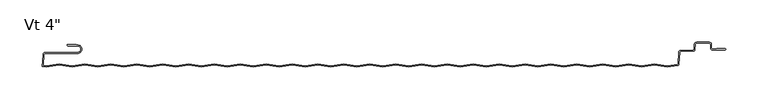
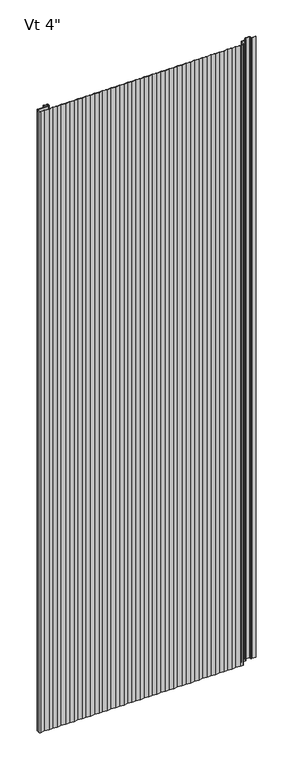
"""IFC4 building model written with IfcOpenShell, lengths in millimetres: plate geometry."""

from ifc_helpers import new_model, si_unit, point, frame, origin, place, context, project, spatial, polyline, circle_curve, ellipse_curve, trimmed, source, transform, mapped, element, save
from ifc_brep_helpers import plane_surface, cylinder_surface, revolved_surface, extruded_surface, advanced_brep


def plate_fa4b8fa4(model_context):
    return source(origin(), model_context, "Body", "AdvancedBrep", [
        advanced_brep(
        [(-404.2252049, -76.2, 2400.0), (-404.2252049, -77.7875, 2400.0), (-392.9142674, -77.7875, 2400.0), (-392.9142674, -85.725, 2400.0), (-431.0975721, -85.725, 2400.0), (-433.4755586, -87.981625, 2400.0), (-434.21832, -102.1543553, 2400.0), (-429.8646686, -102.8509395, 2400.0), (-414.6246686, -100.4125395, 2400.0), (-399.3846686, -102.8509395, 2400.0), (-384.1446686, -100.4125395, 2400.0), (-368.9046686, -102.8509395, 2400.0), (-353.6646686, -100.4125395, 2400.0), (-338.4246686, -102.8509395, 2400.0), (-323.1846686, -100.4125395, 2400.0), (-307.9446686, -102.8509395, 2400.0), (-292.7046686, -100.4125395, 2400.0), (-277.4646686, -102.8509395, 2400.0), (-262.2246686, -100.4125395, 2400.0), (-246.9846686, -102.8509395, 2400.0), (-231.7446686, -100.4125395, 2400.0), (-216.5046686, -102.8509395, 2400.0), (-201.2646686, -100.4125395, 2400.0), (-186.0246686, -102.8509395, 2400.0), (-170.7846686, -100.4125395, 2400.0), (-155.5446686, -102.8509395, 2400.0), (-140.3046686, -100.4125395, 2400.0), (-125.0646686, -102.8509395, 2400.0), (-109.8246686, -100.4125395, 2400.0), (-94.5846686, -102.8509395, 2400.0), (-79.3446686, -100.4125395, 2400.0), (-64.1046686, -102.8509395, 2400.0), (-48.8646686, -100.4125395, 2400.0), (-33.6246686, -102.8509395, 2400.0), (-18.3846686, -100.4125395, 2400.0), (-3.1446686, -102.8509395, 2400.0), (12.0953314, -100.4125395, 2400.0), (27.3353314, -102.8509395, 2400.0), (42.5753314, -100.4125395, 2400.0), (57.8153314, -102.8509395, 2400.0), (73.0553314, -100.4125395, 2400.0), (88.2953314, -102.8509395, 2400.0), (103.5353314, -100.4125395, 2400.0), (118.7753314, -102.8509395, 2400.0), (134.0153314, -100.4125395, 2400.0), (149.2553314, -102.8509395, 2400.0), (164.4953314, -100.4125395, 2400.0), (179.7353314, -102.8509395, 2400.0), (194.9753314, -100.4125395, 2400.0), (210.2153314, -102.8509395, 2400.0), (225.4553314, -100.4125395, 2400.0), (240.6953314, -102.8509395, 2400.0), (255.9353314, -100.4125395, 2400.0), (271.1753314, -102.8509395, 2400.0), (286.4153314, -100.4125395, 2400.0), (301.4527639, -102.8185287, 2400.0), (313.8944828, -100.8278537, 2400.0), (315.2289973, -99.343375, 2400.0), (315.9470603, -85.6419167, 2400.0), (317.5323847, -84.1375, 2400.0), (331.6886911, -84.1375, 2400.0), (334.0666776, -81.880875, 2400.0), (334.3687539, -76.1169167, 2400.0), (335.9540783, -74.6125, 2400.0), (350.8294826, -74.6125, 2400.0), (352.4169826, -76.2, 2400.0), (352.4169826, -80.3671875, 2400.0), (354.7982326, -82.7484375, 2400.0), (369.2898532, -82.7484375, 2400.0), (369.2898532, -80.9546875, 2400.0), (359.5607326, -80.9546875, 2400.0), (359.5607326, -81.7484375, 2400.0), (354.7982326, -81.7484375, 2400.0), (353.4169826, -80.3671875, 2400.0), (353.4169826, -76.2, 2400.0), (350.8294826, -73.6125, 2400.0), (335.9540783, -73.6125, 2400.0), (333.3701244, -76.0645807, 2400.0), (333.0680481, -81.828539, 2400.0), (331.6886911, -83.1375, 2400.0), (317.5323847, -83.1375, 2400.0), (314.9484307, -85.5895807, 2400.0), (314.2303677, -99.291039, 2400.0), (313.7364923, -99.840413, 2400.0), (301.4527639, -101.8058096, 2400.0), (286.4153314, -99.3998204, 2400.0), (271.1753314, -101.8382204, 2400.0), (255.9353314, -99.3998204, 2400.0), (240.6953314, -101.8382204, 2400.0), (225.4553314, -99.3998204, 2400.0), (210.2153314, -101.8382204, 2400.0), (194.9753314, -99.3998204, 2400.0), (179.7353314, -101.8382204, 2400.0), (164.4953314, -99.3998204, 2400.0), (149.2553314, -101.8382204, 2400.0), (134.0153314, -99.3998204, 2400.0), (118.7753314, -101.8382204, 2400.0), (103.5353314, -99.3998204, 2400.0), (88.2953314, -101.8382204, 2400.0), (73.0553314, -99.3998204, 2400.0), (57.8153314, -101.8382204, 2400.0), (42.5753314, -99.3998204, 2400.0), (27.3353314, -101.8382204, 2400.0), (12.0953314, -99.3998204, 2400.0), (-3.1446686, -101.8382204, 2400.0), (-18.3846686, -99.3998204, 2400.0), (-33.6246686, -101.8382204, 2400.0), (-48.8646686, -99.3998204, 2400.0), (-64.1046686, -101.8382204, 2400.0), (-79.3446686, -99.3998204, 2400.0), (-94.5846686, -101.8382204, 2400.0), (-109.8246686, -99.3998204, 2400.0), (-125.0646686, -101.8382204, 2400.0), (-140.3046686, -99.3998204, 2400.0), (-155.5446686, -101.8382204, 2400.0), (-170.7846686, -99.3998204, 2400.0), (-186.0246686, -101.8382204, 2400.0), (-201.2646686, -99.3998204, 2400.0), (-216.5046686, -101.8382204, 2400.0), (-231.7446686, -99.3998204, 2400.0), (-246.9846686, -101.8382204, 2400.0), (-262.2246686, -99.3998204, 2400.0), (-277.4646686, -101.8382204, 2400.0), (-292.7046686, -99.3998204, 2400.0), (-307.9446686, -101.8382204, 2400.0), (-323.1846686, -99.3998204, 2400.0), (-338.4246686, -101.8382204, 2400.0), (-353.6646686, -99.3998204, 2400.0), (-368.9046686, -101.8382204, 2400.0), (-384.1446686, -99.3998204, 2400.0), (-399.3846686, -101.8382204, 2400.0), (-414.6246686, -99.3998204, 2400.0), (-429.8646686, -101.8382204, 2400.0), (-433.1726415, -101.3089447, 2400.0), (-432.4769291, -88.033961, 2400.0), (-431.0975721, -86.725, 2400.0), (-392.9142674, -86.725, 2400.0), (-392.9142674, -76.7875, 2400.0), (-394.5017674, -76.99375, 2400.0), (-394.5017674, -76.2, 2400.0), (-404.2252049, -76.2, 0.0), (-394.5017674, -76.2, 0.0), (-394.5017674, -76.99375, 0.0), (-392.9142674, -76.7875, 0.0), (-392.9142674, -86.725, 0.0), (-431.0975721, -86.725, 0.0), (-432.4769291, -88.033961, 0.0), (-433.1726415, -101.3089447, 0.0), (-429.8646686, -101.8382204, 0.0), (-414.6246686, -99.3998204, 0.0), (-399.3846686, -101.8382204, 0.0), (-384.1446686, -99.3998204, 0.0), (-368.9046686, -101.8382204, 0.0), (-353.6646686, -99.3998204, 0.0), (-338.4246686, -101.8382204, 0.0), (-323.1846686, -99.3998204, 0.0), (-307.9446686, -101.8382204, 0.0), (-292.7046686, -99.3998204, 0.0), (-277.4646686, -101.8382204, 0.0), (-262.2246686, -99.3998204, 0.0), (-246.9846686, -101.8382204, 0.0), (-231.7446686, -99.3998204, 0.0), (-216.5046686, -101.8382204, 0.0), (-201.2646686, -99.3998204, 0.0), (-186.0246686, -101.8382204, 0.0), (-170.7846686, -99.3998204, 0.0), (-155.5446686, -101.8382204, 0.0), (-140.3046686, -99.3998204, 0.0), (-125.0646686, -101.8382204, 0.0), (-109.8246686, -99.3998204, 0.0), (-94.5846686, -101.8382204, 0.0), (-79.3446686, -99.3998204, 0.0), (-64.1046686, -101.8382204, 0.0), (-48.8646686, -99.3998204, 0.0), (-33.6246686, -101.8382204, 0.0), (-18.3846686, -99.3998204, 0.0), (-3.1446686, -101.8382204, 0.0), (12.0953314, -99.3998204, 0.0), (27.3353314, -101.8382204, 0.0), (42.5753314, -99.3998204, 0.0), (57.8153314, -101.8382204, 0.0), (73.0553314, -99.3998204, 0.0), (88.2953314, -101.8382204, 0.0), (103.5353314, -99.3998204, 0.0), (118.7753314, -101.8382204, 0.0), (134.0153314, -99.3998204, 0.0), (149.2553314, -101.8382204, 0.0), (164.4953314, -99.3998204, 0.0), (179.7353314, -101.8382204, 0.0), (194.9753314, -99.3998204, 0.0), (210.2153314, -101.8382204, 0.0), (225.4553314, -99.3998204, 0.0), (240.6953314, -101.8382204, 0.0), (255.9353314, -99.3998204, 0.0), (271.1753314, -101.8382204, 0.0), (286.4153314, -99.3998204, 0.0), (301.4527639, -101.8058096, 0.0), (313.7364923, -99.840413, 0.0), (314.2303677, -99.291039, 0.0), (314.9484307, -85.5895807, 0.0), (317.5323847, -83.1375, 0.0), (331.6886911, -83.1375, 0.0), (333.0680481, -81.828539, 0.0), (333.3701244, -76.0645807, 0.0), (335.9540783, -73.6125, 0.0), (350.8294826, -73.6125, 0.0), (353.4169826, -76.2, 0.0), (353.4169826, -80.3671875, 0.0), (354.7982326, -81.7484375, 0.0), (359.5607326, -81.7484375, 0.0), (359.5607326, -80.9546875, 0.0), (369.2898532, -80.9546875, 0.0), (369.2898532, -82.7484375, 0.0), (354.7982326, -82.7484375, 0.0), (352.4169826, -80.3671875, 0.0), (352.4169826, -76.2, 0.0), (350.8294826, -74.6125, 0.0), (335.9540783, -74.6125, 0.0), (334.3687539, -76.1169167, 0.0), (334.0666776, -81.880875, 0.0), (331.6886911, -84.1375, 0.0), (317.5323847, -84.1375, 0.0), (315.9470603, -85.6419167, 0.0), (315.2289973, -99.343375, 0.0), (313.8944828, -100.8278537, 0.0), (301.4527639, -102.8185287, 0.0), (286.4153314, -100.4125395, 0.0), (271.1753314, -102.8509395, 0.0), (255.9353314, -100.4125395, 0.0), (240.6953314, -102.8509395, 0.0), (225.4553314, -100.4125395, 0.0), (210.2153314, -102.8509395, 0.0), (194.9753314, -100.4125395, 0.0), (179.7353314, -102.8509395, 0.0), (164.4953314, -100.4125395, 0.0), (149.2553314, -102.8509395, 0.0), (134.0153314, -100.4125395, 0.0), (118.7753314, -102.8509395, 0.0), (103.5353314, -100.4125395, 0.0), (88.2953314, -102.8509395, 0.0), (73.0553314, -100.4125395, 0.0), (57.8153314, -102.8509395, 0.0), (42.5753314, -100.4125395, 0.0), (27.3353314, -102.8509395, 0.0), (12.0953314, -100.4125395, 0.0), (-3.1446686, -102.8509395, 0.0), (-18.3846686, -100.4125395, 0.0), (-33.6246686, -102.8509395, 0.0), (-48.8646686, -100.4125395, 0.0), (-64.1046686, -102.8509395, 0.0), (-79.3446686, -100.4125395, 0.0), (-94.5846686, -102.8509395, 0.0), (-109.8246686, -100.4125395, 0.0), (-125.0646686, -102.8509395, 0.0), (-140.3046686, -100.4125395, 0.0), (-155.5446686, -102.8509395, 0.0), (-170.7846686, -100.4125395, 0.0), (-186.0246686, -102.8509395, 0.0), (-201.2646686, -100.4125395, 0.0), (-216.5046686, -102.8509395, 0.0), (-231.7446686, -100.4125395, 0.0), (-246.9846686, -102.8509395, 0.0), (-262.2246686, -100.4125395, 0.0), (-277.4646686, -102.8509395, 0.0), (-292.7046686, -100.4125395, 0.0), (-307.9446686, -102.8509395, 0.0), (-323.1846686, -100.4125395, 0.0), (-338.4246686, -102.8509395, 0.0), (-353.6646686, -100.4125395, 0.0), (-368.9046686, -102.8509395, 0.0), (-384.1446686, -100.4125395, 0.0), (-399.3846686, -102.8509395, 0.0), (-414.6246686, -100.4125395, 0.0), (-429.8646686, -102.8509395, 0.0), (-434.21832, -102.1543553, 0.0), (-433.4755586, -87.981625, 0.0), (-431.0975721, -85.725, 0.0), (-392.9142674, -85.725, 0.0), (-392.9142674, -77.7875, 0.0), (-404.2252049, -77.7875, 0.0)],
        [
            (0, 1, circle_curve(frame((-404.2252049, -76.99375, 2400.0), z_axis=(0.0, 0.0, 1.0), x_axis=(1.0, 0.0, 0.0)), 0.79375)),
            (1, 2),
            (2, 3, circle_curve(frame((-392.9142674, -81.75625, 2400.0), z_axis=(0.0, 0.0, -1.0), x_axis=(1.0, 0.0, 0.0)), 3.96875)),
            (3, 4),
            (4, 5, circle_curve(frame((-431.0975721, -88.10625, 2400.0), z_axis=(0.0, 0.0, 1.0), x_axis=(1.0, 0.0, 0.0)), 2.38125)),
            (5, 6),
            (6, 7),
            (7, 8),
            (8, 9),
            (9, 10),
            (10, 11),
            (11, 12),
            (12, 13),
            (13, 14),
            (14, 15),
            (15, 16),
            (16, 17),
            (17, 18),
            (18, 19),
            (19, 20),
            (20, 21),
            (21, 22),
            (22, 23),
            (23, 24),
            (24, 25),
            (25, 26),
            (26, 27),
            (27, 28),
            (28, 29),
            (29, 30),
            (30, 31),
            (31, 32),
            (32, 33),
            (33, 34),
            (34, 35),
            (35, 36),
            (36, 37),
            (37, 38),
            (38, 39),
            (39, 40),
            (40, 41),
            (41, 42),
            (42, 43),
            (43, 44),
            (44, 45),
            (45, 46),
            (46, 47),
            (47, 48),
            (48, 49),
            (49, 50),
            (50, 51),
            (51, 52),
            (52, 53),
            (53, 54),
            (54, 55),
            (55, 56),
            (56, 57, circle_curve(frame((313.6436729, -99.2602917, 2400.0), z_axis=(0.0, 0.0, 1.0), x_axis=(1.0, 0.0, 0.0)), 1.5875)),
            (57, 58),
            (58, 59, circle_curve(frame((317.5323847, -85.725, 2400.0), z_axis=(0.0, 0.0, -1.0), x_axis=(1.0, 0.0, 0.0)), 1.5875)),
            (59, 60),
            (60, 61, circle_curve(frame((331.6886911, -81.75625, 2400.0), z_axis=(0.0, 0.0, 1.0), x_axis=(1.0, 0.0, 0.0)), 2.38125)),
            (61, 62),
            (62, 63, circle_curve(frame((335.9540783, -76.2, 2400.0), z_axis=(0.0, 0.0, -1.0), x_axis=(1.0, 0.0, 0.0)), 1.5875)),
            (63, 64),
            (64, 65, circle_curve(frame((350.8294826, -76.2, 2400.0), z_axis=(0.0, 0.0, -1.0), x_axis=(1.0, 0.0, 0.0)), 1.5875)),
            (65, 66),
            (66, 67, circle_curve(frame((354.7982326, -80.3671875, 2400.0), z_axis=(0.0, 0.0, 1.0), x_axis=(1.0, 0.0, 0.0)), 2.38125)),
            (67, 68),
            (68, 69, ellipse_curve(frame((369.2898532, -81.8515625, 2400.0), z_axis=(0.0, 0.0, 1.0), x_axis=(0.0, 1.0, 0.0)), 0.896875, 0.7852275)),
            (69, 70),
            (70, 71),
            (71, 72),
            (72, 73, circle_curve(frame((354.7982326, -80.3671875, 2400.0), z_axis=(0.0, 0.0, -1.0), x_axis=(1.0, 0.0, 0.0)), 1.38125)),
            (73, 74),
            (74, 75, circle_curve(frame((350.8294826, -76.2, 2400.0), z_axis=(0.0, 0.0, 1.0), x_axis=(1.0, 0.0, 0.0)), 2.5875)),
            (75, 76),
            (76, 77, circle_curve(frame((335.9540783, -76.2, 2400.0), z_axis=(0.0, 0.0, 1.0), x_axis=(1.0, 0.0, 0.0)), 2.5875)),
            (77, 78),
            (78, 79, circle_curve(frame((331.6886911, -81.75625, 2400.0), z_axis=(0.0, 0.0, -1.0), x_axis=(1.0, 0.0, 0.0)), 1.38125)),
            (79, 80),
            (80, 81, circle_curve(frame((317.5323847, -85.725, 2400.0), z_axis=(0.0, 0.0, 1.0), x_axis=(1.0, 0.0, 0.0)), 2.5875)),
            (81, 82),
            (82, 83, circle_curve(frame((313.6436729, -99.2602917, 2400.0), z_axis=(0.0, 0.0, -1.0), x_axis=(1.0, 0.0, 0.0)), 0.5875)),
            (83, 84),
            (84, 85),
            (85, 86),
            (86, 87),
            (87, 88),
            (88, 89),
            (89, 90),
            (90, 91),
            (91, 92),
            (92, 93),
            (93, 94),
            (94, 95),
            (95, 96),
            (96, 97),
            (97, 98),
            (98, 99),
            (99, 100),
            (100, 101),
            (101, 102),
            (102, 103),
            (103, 104),
            (104, 105),
            (105, 106),
            (106, 107),
            (107, 108),
            (108, 109),
            (109, 110),
            (110, 111),
            (111, 112),
            (112, 113),
            (113, 114),
            (114, 115),
            (115, 116),
            (116, 117),
            (117, 118),
            (118, 119),
            (119, 120),
            (120, 121),
            (121, 122),
            (122, 123),
            (123, 124),
            (124, 125),
            (125, 126),
            (126, 127),
            (127, 128),
            (128, 129),
            (129, 130),
            (130, 131),
            (131, 132),
            (132, 133),
            (133, 134),
            (134, 135, circle_curve(frame((-431.0975721, -88.10625, 2400.0), z_axis=(0.0, 0.0, -1.0), x_axis=(1.0, 0.0, 0.0)), 1.38125)),
            (135, 136),
            (136, 137, circle_curve(frame((-392.9142674, -81.75625, 2400.0), z_axis=(0.0, 0.0, 1.0), x_axis=(1.0, 0.0, 0.0)), 4.96875)),
            (137, 138),
            (138, 139),
            (139, 0),
            (140, 141),
            (141, 142),
            (142, 143),
            (143, 144, circle_curve(frame((-392.9142674, -81.75625, 0.0), z_axis=(0.0, 0.0, -1.0), x_axis=(1.0, 0.0, 0.0)), 4.96875)),
            (144, 145),
            (145, 146, circle_curve(frame((-431.0975721, -88.10625, 0.0), z_axis=(0.0, 0.0, 1.0), x_axis=(1.0, 0.0, 0.0)), 1.38125)),
            (146, 147),
            (147, 148),
            (148, 149),
            (149, 150),
            (150, 151),
            (151, 152),
            (152, 153),
            (153, 154),
            (154, 155),
            (155, 156),
            (156, 157),
            (157, 158),
            (158, 159),
            (159, 160),
            (160, 161),
            (161, 162),
            (162, 163),
            (163, 164),
            (164, 165),
            (165, 166),
            (166, 167),
            (167, 168),
            (168, 169),
            (169, 170),
            (170, 171),
            (171, 172),
            (172, 173),
            (173, 174),
            (174, 175),
            (175, 176),
            (176, 177),
            (177, 178),
            (178, 179),
            (179, 180),
            (180, 181),
            (181, 182),
            (182, 183),
            (183, 184),
            (184, 185),
            (185, 186),
            (186, 187),
            (187, 188),
            (188, 189),
            (189, 190),
            (190, 191),
            (191, 192),
            (192, 193),
            (193, 194),
            (194, 195),
            (195, 196),
            (196, 197),
            (197, 198, circle_curve(frame((313.6436729, -99.2602917, 0.0), z_axis=(0.0, 0.0, 1.0), x_axis=(1.0, 0.0, 0.0)), 0.5875)),
            (198, 199),
            (199, 200, circle_curve(frame((317.5323847, -85.725, 0.0), z_axis=(0.0, 0.0, -1.0), x_axis=(1.0, 0.0, 0.0)), 2.5875)),
            (200, 201),
            (201, 202, circle_curve(frame((331.6886911, -81.75625, 0.0), z_axis=(0.0, 0.0, 1.0), x_axis=(1.0, 0.0, 0.0)), 1.38125)),
            (202, 203),
            (203, 204, circle_curve(frame((335.9540783, -76.2, 0.0), z_axis=(0.0, 0.0, -1.0), x_axis=(1.0, 0.0, 0.0)), 2.5875)),
            (204, 205),
            (205, 206, circle_curve(frame((350.8294826, -76.2, 0.0), z_axis=(0.0, 0.0, -1.0), x_axis=(1.0, 0.0, 0.0)), 2.5875)),
            (206, 207),
            (207, 208, circle_curve(frame((354.7982326, -80.3671875, 0.0), z_axis=(0.0, 0.0, 1.0), x_axis=(1.0, 0.0, 0.0)), 1.38125)),
            (208, 209),
            (209, 210),
            (210, 211),
            (211, 212, ellipse_curve(frame((369.2898532, -81.8515625, 0.0), z_axis=(0.0, 0.0, -1.0), x_axis=(0.0, 1.0, 0.0)), 0.896875, 0.7852275)),
            (212, 213),
            (213, 214, circle_curve(frame((354.7982326, -80.3671875, 0.0), z_axis=(0.0, 0.0, -1.0), x_axis=(1.0, 0.0, 0.0)), 2.38125)),
            (214, 215),
            (215, 216, circle_curve(frame((350.8294826, -76.2, 0.0), z_axis=(0.0, 0.0, 1.0), x_axis=(1.0, 0.0, 0.0)), 1.5875)),
            (216, 217),
            (217, 218, circle_curve(frame((335.9540783, -76.2, 0.0), z_axis=(0.0, 0.0, 1.0), x_axis=(1.0, 0.0, 0.0)), 1.5875)),
            (218, 219),
            (219, 220, circle_curve(frame((331.6886911, -81.75625, 0.0), z_axis=(0.0, 0.0, -1.0), x_axis=(1.0, 0.0, 0.0)), 2.38125)),
            (220, 221),
            (221, 222, circle_curve(frame((317.5323847, -85.725, 0.0), z_axis=(0.0, 0.0, 1.0), x_axis=(1.0, 0.0, 0.0)), 1.5875)),
            (222, 223),
            (223, 224, circle_curve(frame((313.6436729, -99.2602917, 0.0), z_axis=(0.0, 0.0, -1.0), x_axis=(1.0, 0.0, 0.0)), 1.5875)),
            (224, 225),
            (225, 226),
            (226, 227),
            (227, 228),
            (228, 229),
            (229, 230),
            (230, 231),
            (231, 232),
            (232, 233),
            (233, 234),
            (234, 235),
            (235, 236),
            (236, 237),
            (237, 238),
            (238, 239),
            (239, 240),
            (240, 241),
            (241, 242),
            (242, 243),
            (243, 244),
            (244, 245),
            (245, 246),
            (246, 247),
            (247, 248),
            (248, 249),
            (249, 250),
            (250, 251),
            (251, 252),
            (252, 253),
            (253, 254),
            (254, 255),
            (255, 256),
            (256, 257),
            (257, 258),
            (258, 259),
            (259, 260),
            (260, 261),
            (261, 262),
            (262, 263),
            (263, 264),
            (264, 265),
            (265, 266),
            (266, 267),
            (267, 268),
            (268, 269),
            (269, 270),
            (270, 271),
            (271, 272),
            (272, 273),
            (273, 274),
            (274, 275),
            (275, 276, circle_curve(frame((-431.0975721, -88.10625, 0.0), z_axis=(0.0, 0.0, -1.0), x_axis=(1.0, 0.0, 0.0)), 2.38125)),
            (276, 277),
            (277, 278, circle_curve(frame((-392.9142674, -81.75625, 0.0), z_axis=(0.0, 0.0, 1.0), x_axis=(1.0, 0.0, 0.0)), 3.96875)),
            (278, 279),
            (279, 140, circle_curve(frame((-404.2252049, -76.99375, 0.0), z_axis=(0.0, 0.0, -1.0), x_axis=(1.0, 0.0, 0.0)), 0.79375)),
            (139, 141),
            (140, 0),
            (279, 1),
            (278, 2),
            (277, 3),
            (276, 4),
            (275, 5),
            (274, 6),
            (58, 222),
            (221, 59),
            (220, 60),
            (219, 61),
            (218, 62),
            (217, 63),
            (134, 146),
            (145, 135),
            (80, 200),
            (199, 81),
            (79, 201),
            (78, 202),
            (77, 203),
            (76, 204),
            (71, 209),
            (208, 72),
            (207, 73),
            (206, 74),
            (216, 64),
            (215, 65),
            (214, 66),
            (213, 67),
            (212, 68),
            (75, 205),
            (144, 136),
            (143, 137),
            (138, 142),
            (70, 210),
            (69, 211),
            (85, 195),
            (194, 86),
            (193, 87),
            (192, 88),
            (191, 89),
            (190, 90),
            (189, 91),
            (188, 92),
            (187, 93),
            (186, 94),
            (185, 95),
            (184, 96),
            (183, 97),
            (182, 98),
            (181, 99),
            (129, 151),
            (150, 130),
            (149, 131),
            (148, 132),
            (147, 133),
            (273, 7),
            (272, 8),
            (271, 9),
            (270, 10),
            (24, 256),
            (255, 25),
            (254, 26),
            (253, 27),
            (252, 28),
            (40, 240),
            (239, 41),
            (238, 42),
            (39, 241),
            (38, 242),
            (37, 243),
            (36, 244),
            (35, 245),
            (34, 246),
            (33, 247),
            (32, 248),
            (31, 249),
            (30, 250),
            (29, 251),
            (114, 166),
            (165, 115),
            (113, 167),
            (112, 168),
            (111, 169),
            (110, 170),
            (109, 171),
            (108, 172),
            (107, 173),
            (106, 174),
            (105, 175),
            (104, 176),
            (103, 177),
            (102, 178),
            (101, 179),
            (100, 180),
            (121, 159),
            (158, 122),
            (57, 223),
            (198, 82),
            (54, 226),
            (225, 55),
            (84, 196),
            (237, 43),
            (236, 44),
            (235, 45),
            (234, 46),
            (233, 47),
            (232, 48),
            (231, 49),
            (230, 50),
            (229, 51),
            (228, 52),
            (157, 123),
            (227, 53),
            (224, 56),
            (197, 83),
            (164, 116),
            (163, 117),
            (162, 118),
            (161, 119),
            (160, 120),
            (19, 261),
            (260, 20),
            (18, 262),
            (259, 21),
            (22, 258),
            (257, 23),
            (156, 124),
            (125, 155),
            (154, 126),
            (153, 127),
            (12, 268),
            (267, 13),
            (266, 14),
            (265, 15),
            (264, 16),
            (263, 17),
            (152, 128),
            (269, 11),
        ],
        [
            plane_surface(frame((0.00625, -101.6, 2400.0), z_axis=(0.0, 0.0, 1.0), x_axis=(0.0, -1.0, 0.0))),
            plane_surface(frame((0.00625, -101.6, 0.0), z_axis=(0.0, 0.0, -1.0), x_axis=(0.0, -1.0, 0.0))),
            plane_surface(frame((-404.2252049, -76.2, 2400.0), z_axis=(0.0, 1.0, 0.0), x_axis=(0.0, 0.0, -1.0))),
            cylinder_surface(frame((-404.2252049, -76.99375, 2400.0), z_axis=(0.0, 0.0, 1.0), x_axis=(1.0, 0.0, 0.0)), 0.79375),
            plane_surface(frame((-392.9142674, -77.7875, 2400.0), z_axis=(0.0, -1.0, 0.0), x_axis=(0.0, 0.0, -1.0))),
            revolved_surface(polyline([(-388.9455174, -81.75625, 0.0), (-388.9455174, -81.75625, 2400.0)]), (-392.9142674, -81.75625, 2400.0), (0.0, 0.0, -1.0)),
            plane_surface(frame((-431.0975721, -85.725, 2400.0), z_axis=(0.0, 1.0, 0.0), x_axis=(0.0, 0.0, -1.0))),
            cylinder_surface(frame((-431.0975721, -88.10625, 2400.0), z_axis=(0.0, 0.0, 1.0), x_axis=(1.0, 0.0, 0.0)), 2.38125),
            plane_surface(frame((-434.21832, -102.1543553, 2400.0), z_axis=(-0.9986295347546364, 0.05233595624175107, 0.0), x_axis=(0.0, 0.0, -1.0))),
            revolved_surface(polyline([(319.1198847, -85.725, 0.0), (319.1198847, -85.725, 2400.0)]), (317.5323847, -85.725, 2400.0), (0.0, 0.0, -1.0)),
            plane_surface(frame((331.6886911, -84.1375, 2400.0), z_axis=(0.0, -1.0, 0.0), x_axis=(0.0, 0.0, -1.0))),
            cylinder_surface(frame((331.6886911, -81.75625, 2400.0), z_axis=(0.0, 0.0, 1.0), x_axis=(1.0, 0.0, 0.0)), 2.38125),
            plane_surface(frame((334.3687539, -76.1169167, 2400.0), z_axis=(0.9986295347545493, -0.052335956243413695, 0.0), x_axis=(0.0, 0.0, -1.0))),
            revolved_surface(polyline([(337.54157829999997, -76.2, 0.0), (337.54157829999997, -76.2, 2400.0)]), (335.9540783, -76.2, 2400.0), (0.0, 0.0, -1.0)),
            revolved_surface(polyline([(-429.71632209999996, -88.10625, 0.0), (-429.71632209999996, -88.10625, 2400.0)]), (-431.0975721, -88.10625, 2400.0), (0.0, 0.0, -1.0)),
            cylinder_surface(frame((317.5323847, -85.725, 2400.0), z_axis=(0.0, 0.0, 1.0), x_axis=(1.0, 0.0, 0.0)), 2.5875),
            plane_surface(frame((317.5323847, -83.1375, 2400.0), z_axis=(0.0, 1.0, 0.0), x_axis=(0.0, 0.0, -1.0))),
            revolved_surface(polyline([(333.06994110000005, -81.75625, 0.0), (333.06994110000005, -81.75625, 2400.0)]), (331.6886911, -81.75625, 2400.0), (0.0, 0.0, -1.0)),
            plane_surface(frame((333.0680481, -81.828539, 2400.0), z_axis=(-0.998629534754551, 0.05233595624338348, 0.0), x_axis=(0.0, 0.0, -1.0))),
            cylinder_surface(frame((335.9540783, -76.2, 2400.0), z_axis=(0.0, 0.0, 1.0), x_axis=(1.0, 0.0, 0.0)), 2.5875),
            plane_surface(frame((354.7982326, -81.7484375, 2400.0), z_axis=(0.0, 1.0, 0.0), x_axis=(0.0, 0.0, -1.0))),
            revolved_surface(polyline([(356.17948260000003, -80.3671875, 0.0), (356.17948260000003, -80.3671875, 2400.0)]), (354.7982326, -80.3671875, 2400.0), (0.0, 0.0, -1.0)),
            plane_surface(frame((353.4169826, -76.2, 2400.0), z_axis=(1.0, 0.0, 0.0), x_axis=(0.0, 0.0, -1.0))),
            plane_surface(frame((350.8294826, -74.6125, 2400.0), z_axis=(0.0, -1.0, 0.0), x_axis=(0.0, 0.0, -1.0))),
            revolved_surface(polyline([(352.4169826, -76.2, 0.0), (352.4169826, -76.2, 2400.0)]), (350.8294826, -76.2, 2400.0), (0.0, 0.0, -1.0)),
            plane_surface(frame((352.4169826, -80.3671875, 2400.0), z_axis=(-1.0, 0.0, 0.0), x_axis=(0.0, 0.0, -1.0))),
            cylinder_surface(frame((354.7982326, -80.3671875, 2400.0), z_axis=(0.0, 0.0, 1.0), x_axis=(1.0, 0.0, 0.0)), 2.38125),
            plane_surface(frame((369.2898532, -82.7484375, 2400.0), z_axis=(0.0, -1.0, 0.0), x_axis=(0.0, 0.0, -1.0))),
            plane_surface(frame((335.9540783, -73.6125, 2400.0), z_axis=(0.0, 1.0, 0.0), x_axis=(0.0, 0.0, -1.0))),
            cylinder_surface(frame((350.8294826, -76.2, 2400.0), z_axis=(0.0, 0.0, 1.0), x_axis=(1.0, 0.0, 0.0)), 2.5875),
            plane_surface(frame((-392.9142674, -86.725, 2400.0), z_axis=(0.0, -1.0, 0.0), x_axis=(0.0, 0.0, -1.0))),
            cylinder_surface(frame((-392.9142674, -81.75625, 2400.0), z_axis=(0.0, 0.0, 1.0), x_axis=(1.0, 0.0, 0.0)), 4.96875),
            plane_surface(frame((-394.5017674, -76.2, 2400.0), z_axis=(1.0, 0.0, 0.0), x_axis=(0.0, 0.0, -1.0))),
            plane_surface(frame((-394.5017674, -76.99375, 2400.0), z_axis=(-0.12883844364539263, 0.9916655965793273, 0.0), x_axis=(0.0, 0.0, -1.0))),
            plane_surface(frame((359.5607326, -81.7484375, 2400.0), z_axis=(-1.0, 0.0, 0.0), x_axis=(0.0, 0.0, -1.0))),
            plane_surface(frame((359.5607326, -80.9546875, 2400.0), z_axis=(0.0, 1.0, 0.0), x_axis=(0.0, 0.0, -1.0))),
            extruded_surface(trimmed(ellipse_curve(frame((369.2898532, -81.8515625, 2400.0), z_axis=(0.0, 0.0, -1.0), x_axis=(0.0, 1.0, 0.0)), 0.896875, 0.7852275), [point((369.2898532, -80.9546875, 2400.0))], [point((369.2898532, -82.7484375, 2400.0))], True, "CARTESIAN"), (0.0, 0.0, -2400.0), 2400.0),
            plane_surface(frame((271.1753314, -101.8382204, 2400.0), z_axis=(-0.15799050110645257, 0.9874406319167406, 0.0), x_axis=(0.0, 0.0, -1.0))),
            plane_surface(frame((255.9353314, -99.3998204, 2400.0), z_axis=(0.157990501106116, 0.9874406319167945, 0.0), x_axis=(0.0, 0.0, -1.0))),
            plane_surface(frame((240.6953314, -101.8382204, 2400.0), z_axis=(-0.15799050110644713, 0.9874406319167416, 0.0), x_axis=(0.0, 0.0, -1.0))),
            plane_surface(frame((225.4553314, -99.3998204, 2400.0), z_axis=(0.157990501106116, 0.9874406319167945, 0.0), x_axis=(0.0, 0.0, -1.0))),
            plane_surface(frame((210.2153314, -101.8382204, 2400.0), z_axis=(-0.15799050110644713, 0.9874406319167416, 0.0), x_axis=(0.0, 0.0, -1.0))),
            plane_surface(frame((194.9753314, -99.3998204, 2400.0), z_axis=(0.157990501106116, 0.9874406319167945, 0.0), x_axis=(0.0, 0.0, -1.0))),
            plane_surface(frame((179.7353314, -101.8382204, 2400.0), z_axis=(-0.15799050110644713, 0.9874406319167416, 0.0), x_axis=(0.0, 0.0, -1.0))),
            plane_surface(frame((164.4953314, -99.3998204, 2400.0), z_axis=(0.15799050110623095, 0.9874406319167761, 0.0), x_axis=(0.0, 0.0, -1.0))),
            plane_surface(frame((149.2553314, -101.8382204, 2400.0), z_axis=(-0.15799050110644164, 0.9874406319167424, 0.0), x_axis=(0.0, 0.0, -1.0))),
            plane_surface(frame((134.0153314, -99.3998204, 2400.0), z_axis=(0.15799050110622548, 0.987440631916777, 0.0), x_axis=(0.0, 0.0, -1.0))),
            plane_surface(frame((118.7753314, -101.8382204, 2400.0), z_axis=(-0.15799050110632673, 0.9874406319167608, 0.0), x_axis=(0.0, 0.0, -1.0))),
            plane_surface(frame((103.5353314, -99.3998204, 2400.0), z_axis=(0.15799050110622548, 0.987440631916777, 0.0), x_axis=(0.0, 0.0, -1.0))),
            plane_surface(frame((88.2953314, -101.8382204, 2400.0), z_axis=(-0.15799050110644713, 0.9874406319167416, 0.0), x_axis=(0.0, 0.0, -1.0))),
            plane_surface(frame((73.0553314, -99.3998204, 2400.0), z_axis=(0.15799050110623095, 0.9874406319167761, 0.0), x_axis=(0.0, 0.0, -1.0))),
            plane_surface(frame((-399.3846686, -101.8382204, 2400.0), z_axis=(-0.15799050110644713, 0.9874406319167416, 0.0), x_axis=(0.0, 0.0, -1.0))),
            plane_surface(frame((-414.6246686, -99.3998204, 2400.0), z_axis=(0.157990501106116, 0.9874406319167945, 0.0), x_axis=(0.0, 0.0, -1.0))),
            plane_surface(frame((-429.8646686, -101.8382204, 2400.0), z_axis=(-0.15799050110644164, 0.9874406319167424, 0.0), x_axis=(0.0, 0.0, -1.0))),
            plane_surface(frame((-433.1726415, -101.3089447, 2400.0), z_axis=(0.1579905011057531, 0.9874406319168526, 0.0), x_axis=(0.0, 0.0, -1.0))),
            plane_surface(frame((-429.8646686, -102.8509395, 2400.0), z_axis=(-0.15799050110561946, -0.9874406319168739, 0.0), x_axis=(0.0, 0.0, -1.0))),
            plane_surface(frame((-414.6246686, -100.4125395, 2400.0), z_axis=(0.15799050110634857, -0.9874406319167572, 0.0), x_axis=(0.0, 0.0, -1.0))),
            plane_surface(frame((-399.3846686, -102.8509395, 2400.0), z_axis=(-0.15799050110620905, -0.9874406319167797, 0.0), x_axis=(0.0, 0.0, -1.0))),
            plane_surface(frame((-384.1446686, -100.4125395, 2400.0), z_axis=(0.15799050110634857, -0.9874406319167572, 0.0), x_axis=(0.0, 0.0, -1.0))),
            plane_surface(frame((-155.5446686, -102.8509395, 2400.0), z_axis=(-0.15799050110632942, -0.9874406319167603, 0.0), x_axis=(0.0, 0.0, -1.0))),
            plane_surface(frame((-140.3046686, -100.4125395, 2400.0), z_axis=(0.15799050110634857, -0.9874406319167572, 0.0), x_axis=(0.0, 0.0, -1.0))),
            plane_surface(frame((-125.0646686, -102.8509395, 2400.0), z_axis=(-0.15799050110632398, -0.9874406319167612, 0.0), x_axis=(0.0, 0.0, -1.0))),
            plane_surface(frame((-109.8246686, -100.4125395, 2400.0), z_axis=(0.15799050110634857, -0.9874406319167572, 0.0), x_axis=(0.0, 0.0, -1.0))),
            plane_surface(frame((88.2953314, -102.8509395, 2400.0), z_axis=(-0.15799050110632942, -0.9874406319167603, 0.0), x_axis=(0.0, 0.0, -1.0))),
            plane_surface(frame((103.5353314, -100.4125395, 2400.0), z_axis=(0.15799050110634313, -0.9874406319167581, 0.0), x_axis=(0.0, 0.0, -1.0))),
            plane_surface(frame((73.0553314, -100.4125395, 2400.0), z_axis=(0.15799050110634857, -0.9874406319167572, 0.0), x_axis=(0.0, 0.0, -1.0))),
            plane_surface(frame((57.8153314, -102.8509395, 2400.0), z_axis=(-0.15799050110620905, -0.9874406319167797, 0.0), x_axis=(0.0, 0.0, -1.0))),
            plane_surface(frame((42.5753314, -100.4125395, 2400.0), z_axis=(0.15799050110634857, -0.9874406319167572, 0.0), x_axis=(0.0, 0.0, -1.0))),
            plane_surface(frame((27.3353314, -102.8509395, 2400.0), z_axis=(-0.15799050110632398, -0.9874406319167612, 0.0), x_axis=(0.0, 0.0, -1.0))),
            plane_surface(frame((12.0953314, -100.4125395, 2400.0), z_axis=(0.15799050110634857, -0.9874406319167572, 0.0), x_axis=(0.0, 0.0, -1.0))),
            plane_surface(frame((-3.1446686, -102.8509395, 2400.0), z_axis=(-0.15799050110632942, -0.9874406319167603, 0.0), x_axis=(0.0, 0.0, -1.0))),
            plane_surface(frame((-18.3846686, -100.4125395, 2400.0), z_axis=(0.1579905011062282, -0.9874406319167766, 0.0), x_axis=(0.0, 0.0, -1.0))),
            plane_surface(frame((-33.6246686, -102.8509395, 2400.0), z_axis=(-0.15799050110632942, -0.9874406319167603, 0.0), x_axis=(0.0, 0.0, -1.0))),
            plane_surface(frame((-48.8646686, -100.4125395, 2400.0), z_axis=(0.15799050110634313, -0.9874406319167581, 0.0), x_axis=(0.0, 0.0, -1.0))),
            plane_surface(frame((-64.1046686, -102.8509395, 2400.0), z_axis=(-0.15799050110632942, -0.9874406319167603, 0.0), x_axis=(0.0, 0.0, -1.0))),
            plane_surface(frame((-79.3446686, -100.4125395, 2400.0), z_axis=(0.15799050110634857, -0.9874406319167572, 0.0), x_axis=(0.0, 0.0, -1.0))),
            plane_surface(frame((-94.5846686, -102.8509395, 2400.0), z_axis=(-0.15799050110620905, -0.9874406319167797, 0.0), x_axis=(0.0, 0.0, -1.0))),
            plane_surface(frame((-170.7846686, -99.3998204, 2400.0), z_axis=(0.15799050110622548, 0.987440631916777, 0.0), x_axis=(0.0, 0.0, -1.0))),
            plane_surface(frame((-155.5446686, -101.8382204, 2400.0), z_axis=(-0.15799050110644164, 0.9874406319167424, 0.0), x_axis=(0.0, 0.0, -1.0))),
            plane_surface(frame((-140.3046686, -99.3998204, 2400.0), z_axis=(0.15799050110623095, 0.9874406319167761, 0.0), x_axis=(0.0, 0.0, -1.0))),
            plane_surface(frame((-125.0646686, -101.8382204, 2400.0), z_axis=(-0.15799050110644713, 0.9874406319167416, 0.0), x_axis=(0.0, 0.0, -1.0))),
            plane_surface(frame((-109.8246686, -99.3998204, 2400.0), z_axis=(0.157990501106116, 0.9874406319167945, 0.0), x_axis=(0.0, 0.0, -1.0))),
            plane_surface(frame((-94.5846686, -101.8382204, 2400.0), z_axis=(-0.15799050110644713, 0.9874406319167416, 0.0), x_axis=(0.0, 0.0, -1.0))),
            plane_surface(frame((-79.3446686, -99.3998204, 2400.0), z_axis=(0.15799050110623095, 0.9874406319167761, 0.0), x_axis=(0.0, 0.0, -1.0))),
            plane_surface(frame((-64.1046686, -101.8382204, 2400.0), z_axis=(-0.15799050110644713, 0.9874406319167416, 0.0), x_axis=(0.0, 0.0, -1.0))),
            plane_surface(frame((-48.8646686, -99.3998204, 2400.0), z_axis=(0.15799050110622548, 0.987440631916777, 0.0), x_axis=(0.0, 0.0, -1.0))),
            plane_surface(frame((-33.6246686, -101.8382204, 2400.0), z_axis=(-0.15799050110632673, 0.9874406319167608, 0.0), x_axis=(0.0, 0.0, -1.0))),
            plane_surface(frame((-18.3846686, -99.3998204, 2400.0), z_axis=(0.15799050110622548, 0.987440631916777, 0.0), x_axis=(0.0, 0.0, -1.0))),
            plane_surface(frame((-3.1446686, -101.8382204, 2400.0), z_axis=(-0.15799050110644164, 0.9874406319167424, 0.0), x_axis=(0.0, 0.0, -1.0))),
            plane_surface(frame((12.0953314, -99.3998204, 2400.0), z_axis=(0.15799050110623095, 0.9874406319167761, 0.0), x_axis=(0.0, 0.0, -1.0))),
            plane_surface(frame((27.3353314, -101.8382204, 2400.0), z_axis=(-0.15799050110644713, 0.9874406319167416, 0.0), x_axis=(0.0, 0.0, -1.0))),
            plane_surface(frame((42.5753314, -99.3998204, 2400.0), z_axis=(0.157990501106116, 0.9874406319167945, 0.0), x_axis=(0.0, 0.0, -1.0))),
            plane_surface(frame((57.8153314, -101.8382204, 2400.0), z_axis=(-0.15799050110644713, 0.9874406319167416, 0.0), x_axis=(0.0, 0.0, -1.0))),
            plane_surface(frame((-432.4769291, -88.033961, 2400.0), z_axis=(0.9986295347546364, -0.05233595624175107, 0.0), x_axis=(0.0, 0.0, -1.0))),
            plane_surface(frame((-277.4646686, -101.8382204, 2400.0), z_axis=(-0.15799050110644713, 0.9874406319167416, 0.0), x_axis=(0.0, 0.0, -1.0))),
            plane_surface(frame((315.9470603, -85.6419167, 2400.0), z_axis=(0.9986295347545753, -0.052335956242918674, 0.0), x_axis=(0.0, 0.0, -1.0))),
            plane_surface(frame((314.2303677, -99.291039, 2400.0), z_axis=(-0.9986295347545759, 0.05233595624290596, 0.0), x_axis=(0.0, 0.0, -1.0))),
            plane_surface(frame((301.4527639, -102.8185287, 2400.0), z_axis=(-0.15799050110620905, -0.9874406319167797, 0.0), x_axis=(0.0, 0.0, -1.0))),
            plane_surface(frame((286.4153314, -99.3998204, 2400.0), z_axis=(0.15799050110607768, 0.9874406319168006, 0.0), x_axis=(0.0, 0.0, -1.0))),
            plane_surface(frame((118.7753314, -102.8509395, 2400.0), z_axis=(-0.15799050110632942, -0.9874406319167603, 0.0), x_axis=(0.0, 0.0, -1.0))),
            plane_surface(frame((134.0153314, -100.4125395, 2400.0), z_axis=(0.1579905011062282, -0.9874406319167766, 0.0), x_axis=(0.0, 0.0, -1.0))),
            plane_surface(frame((149.2553314, -102.8509395, 2400.0), z_axis=(-0.15799050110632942, -0.9874406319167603, 0.0), x_axis=(0.0, 0.0, -1.0))),
            plane_surface(frame((164.4953314, -100.4125395, 2400.0), z_axis=(0.15799050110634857, -0.9874406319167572, 0.0), x_axis=(0.0, 0.0, -1.0))),
            plane_surface(frame((179.7353314, -102.8509395, 2400.0), z_axis=(-0.15799050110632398, -0.9874406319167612, 0.0), x_axis=(0.0, 0.0, -1.0))),
            plane_surface(frame((194.9753314, -100.4125395, 2400.0), z_axis=(0.15799050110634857, -0.9874406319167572, 0.0), x_axis=(0.0, 0.0, -1.0))),
            plane_surface(frame((210.2153314, -102.8509395, 2400.0), z_axis=(-0.15799050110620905, -0.9874406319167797, 0.0), x_axis=(0.0, 0.0, -1.0))),
            plane_surface(frame((225.4553314, -100.4125395, 2400.0), z_axis=(0.15799050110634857, -0.9874406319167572, 0.0), x_axis=(0.0, 0.0, -1.0))),
            plane_surface(frame((240.6953314, -102.8509395, 2400.0), z_axis=(-0.15799050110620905, -0.9874406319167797, 0.0), x_axis=(0.0, 0.0, -1.0))),
            plane_surface(frame((255.9353314, -100.4125395, 2400.0), z_axis=(0.15799050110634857, -0.9874406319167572, 0.0), x_axis=(0.0, 0.0, -1.0))),
            plane_surface(frame((-292.7046686, -99.3998204, 2400.0), z_axis=(0.157990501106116, 0.9874406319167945, 0.0), x_axis=(0.0, 0.0, -1.0))),
            plane_surface(frame((271.1753314, -102.8509395, 2400.0), z_axis=(-0.15799050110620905, -0.9874406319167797, 0.0), x_axis=(0.0, 0.0, -1.0))),
            plane_surface(frame((286.4153314, -100.4125395, 2400.0), z_axis=(0.15799050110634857, -0.9874406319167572, 0.0), x_axis=(0.0, 0.0, -1.0))),
            plane_surface(frame((313.8944828, -100.8278537, 2400.0), z_axis=(0.15799050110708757, -0.987440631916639, 0.0), x_axis=(0.0, 0.0, -1.0))),
            cylinder_surface(frame((313.6436729, -99.2602917, 2400.0), z_axis=(0.0, 0.0, 1.0), x_axis=(1.0, 0.0, 0.0)), 1.5875),
            revolved_surface(polyline([(314.2311729, -99.2602917, 0.0), (314.2311729, -99.2602917, 2400.0)]), (313.6436729, -99.2602917, 2400.0), (0.0, 0.0, -1.0)),
            plane_surface(frame((301.4527639, -101.8058096, 2400.0), z_axis=(-0.15799050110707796, 0.9874406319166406, 0.0), x_axis=(0.0, 0.0, -1.0))),
            plane_surface(frame((-186.0246686, -101.8382204, 2400.0), z_axis=(-0.15799050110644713, 0.9874406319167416, 0.0), x_axis=(0.0, 0.0, -1.0))),
            plane_surface(frame((-201.2646686, -99.3998204, 2400.0), z_axis=(0.157990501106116, 0.9874406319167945, 0.0), x_axis=(0.0, 0.0, -1.0))),
            plane_surface(frame((-216.5046686, -101.8382204, 2400.0), z_axis=(-0.15799050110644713, 0.9874406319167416, 0.0), x_axis=(0.0, 0.0, -1.0))),
            plane_surface(frame((-231.7446686, -99.3998204, 2400.0), z_axis=(0.15799050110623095, 0.9874406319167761, 0.0), x_axis=(0.0, 0.0, -1.0))),
            plane_surface(frame((-246.9846686, -101.8382204, 2400.0), z_axis=(-0.15799050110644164, 0.9874406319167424, 0.0), x_axis=(0.0, 0.0, -1.0))),
            plane_surface(frame((-262.2246686, -99.3998204, 2400.0), z_axis=(0.15799050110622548, 0.987440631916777, 0.0), x_axis=(0.0, 0.0, -1.0))),
            plane_surface(frame((-231.7446686, -100.4125395, 2400.0), z_axis=(0.15799050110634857, -0.9874406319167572, 0.0), x_axis=(0.0, 0.0, -1.0))),
            plane_surface(frame((-246.9846686, -102.8509395, 2400.0), z_axis=(-0.15799050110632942, -0.9874406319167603, 0.0), x_axis=(0.0, 0.0, -1.0))),
            plane_surface(frame((-216.5046686, -102.8509395, 2400.0), z_axis=(-0.15799050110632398, -0.9874406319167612, 0.0), x_axis=(0.0, 0.0, -1.0))),
            plane_surface(frame((-186.0246686, -102.8509395, 2400.0), z_axis=(-0.15799050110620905, -0.9874406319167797, 0.0), x_axis=(0.0, 0.0, -1.0))),
            plane_surface(frame((-170.7846686, -100.4125395, 2400.0), z_axis=(0.15799050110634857, -0.9874406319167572, 0.0), x_axis=(0.0, 0.0, -1.0))),
            plane_surface(frame((-201.2646686, -100.4125395, 2400.0), z_axis=(0.15799050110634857, -0.9874406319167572, 0.0), x_axis=(0.0, 0.0, -1.0))),
            plane_surface(frame((-307.9446686, -101.8382204, 2400.0), z_axis=(-0.15799050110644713, 0.9874406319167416, 0.0), x_axis=(0.0, 0.0, -1.0))),
            plane_surface(frame((-338.4246686, -101.8382204, 2400.0), z_axis=(-0.15799050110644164, 0.9874406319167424, 0.0), x_axis=(0.0, 0.0, -1.0))),
            plane_surface(frame((-353.6646686, -99.3998204, 2400.0), z_axis=(0.15799050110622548, 0.987440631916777, 0.0), x_axis=(0.0, 0.0, -1.0))),
            plane_surface(frame((-338.4246686, -102.8509395, 2400.0), z_axis=(-0.15799050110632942, -0.9874406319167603, 0.0), x_axis=(0.0, 0.0, -1.0))),
            plane_surface(frame((-323.1846686, -100.4125395, 2400.0), z_axis=(0.15799050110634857, -0.9874406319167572, 0.0), x_axis=(0.0, 0.0, -1.0))),
            plane_surface(frame((-307.9446686, -102.8509395, 2400.0), z_axis=(-0.15799050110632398, -0.9874406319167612, 0.0), x_axis=(0.0, 0.0, -1.0))),
            plane_surface(frame((-292.7046686, -100.4125395, 2400.0), z_axis=(0.15799050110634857, -0.9874406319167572, 0.0), x_axis=(0.0, 0.0, -1.0))),
            plane_surface(frame((-277.4646686, -102.8509395, 2400.0), z_axis=(-0.15799050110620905, -0.9874406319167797, 0.0), x_axis=(0.0, 0.0, -1.0))),
            plane_surface(frame((-262.2246686, -100.4125395, 2400.0), z_axis=(0.15799050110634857, -0.9874406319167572, 0.0), x_axis=(0.0, 0.0, -1.0))),
            plane_surface(frame((-368.9046686, -101.8382204, 2400.0), z_axis=(-0.15799050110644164, 0.9874406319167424, 0.0), x_axis=(0.0, 0.0, -1.0))),
            plane_surface(frame((-384.1446686, -99.3998204, 2400.0), z_axis=(0.15799050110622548, 0.987440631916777, 0.0), x_axis=(0.0, 0.0, -1.0))),
            plane_surface(frame((-368.9046686, -102.8509395, 2400.0), z_axis=(-0.15799050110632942, -0.9874406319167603, 0.0), x_axis=(0.0, 0.0, -1.0))),
            plane_surface(frame((-353.6646686, -100.4125395, 2400.0), z_axis=(0.15799050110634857, -0.9874406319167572, 0.0), x_axis=(0.0, 0.0, -1.0))),
            plane_surface(frame((-323.1846686, -99.3998204, 2400.0), z_axis=(0.15799050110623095, 0.9874406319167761, 0.0), x_axis=(0.0, 0.0, -1.0))),
        ],
        [
            (0, [[1, 2, 3, 4, 5, 6, 7, 8, 9, 10, 11, 12, 13, 14, 15, 16, 17, 18, 19, 20, 21, 22, 23, 24, 25, 26, 27, 28, 29, 30, 31, 32, 33, 34, 35, 36, 37, 38, 39, 40, 41, 42, 43, 44, 45, 46, 47, 48, 49, 50, 51, 52, 53, 54, 55, 56, 57, 58, 59, 60, 61, 62, 63, 64, 65, 66, 67, 68, 69, 70, 71, 72, 73, 74, 75, 76, 77, 78, 79, 80, 81, 82, 83, 84, 85, 86, 87, 88, 89, 90, 91, 92, 93, 94, 95, 96, 97, 98, 99, 100, 101, 102, 103, 104, 105, 106, 107, 108, 109, 110, 111, 112, 113, 114, 115, 116, 117, 118, 119, 120, 121, 122, 123, 124, 125, 126, 127, 128, 129, 130, 131, 132, 133, 134, 135, 136, 137, 138, 139, 140]]),
            (1, [[141, 142, 143, 144, 145, 146, 147, 148, 149, 150, 151, 152, 153, 154, 155, 156, 157, 158, 159, 160, 161, 162, 163, 164, 165, 166, 167, 168, 169, 170, 171, 172, 173, 174, 175, 176, 177, 178, 179, 180, 181, 182, 183, 184, 185, 186, 187, 188, 189, 190, 191, 192, 193, 194, 195, 196, 197, 198, 199, 200, 201, 202, 203, 204, 205, 206, 207, 208, 209, 210, 211, 212, 213, 214, 215, 216, 217, 218, 219, 220, 221, 222, 223, 224, 225, 226, 227, 228, 229, 230, 231, 232, 233, 234, 235, 236, 237, 238, 239, 240, 241, 242, 243, 244, 245, 246, 247, 248, 249, 250, 251, 252, 253, 254, 255, 256, 257, 258, 259, 260, 261, 262, 263, 264, 265, 266, 267, 268, 269, 270, 271, 272, 273, 274, 275, 276, 277, 278, 279, 280]]),
            (2, [[281, -141, 282, -140]]),
            (3, [[-282, -280, 283, -1]]),
            (4, [[-283, -279, 284, -2]]),
            (5, [[-284, -278, 285, -3]]),
            (6, [[-285, -277, 286, -4]]),
            (7, [[-286, -276, 287, -5]]),
            (8, [[-287, -275, 288, -6]]),
            (9, [[289, -222, 290, -59]]),
            (10, [[-290, -221, 291, -60]]),
            (11, [[-291, -220, 292, -61]]),
            (12, [[-292, -219, 293, -62]]),
            (13, [[-293, -218, 294, -63]]),
            (14, [[295, -146, 296, -135]]),
            (15, [[297, -200, 298, -81]]),
            (16, [[299, -201, -297, -80]]),
            (17, [[300, -202, -299, -79]]),
            (18, [[301, -203, -300, -78]]),
            (19, [[302, -204, -301, -77]]),
            (20, [[303, -209, 304, -72]]),
            (21, [[-304, -208, 305, -73]]),
            (22, [[-305, -207, 306, -74]]),
            (23, [[-294, -217, 307, -64]]),
            (24, [[-307, -216, 308, -65]]),
            (25, [[-308, -215, 309, -66]]),
            (26, [[-309, -214, 310, -67]]),
            (27, [[-310, -213, 311, -68]]),
            (28, [[312, -205, -302, -76]]),
            (29, [[-306, -206, -312, -75]]),
            (30, [[-296, -145, 313, -136]]),
            (31, [[-313, -144, 314, -137]]),
            (32, [[315, -142, -281, -139]]),
            (33, [[-314, -143, -315, -138]]),
            (34, [[316, -210, -303, -71]]),
            (35, [[317, -211, -316, -70]]),
            (36, [[-311, -212, -317, -69]]),
            (37, [[318, -195, 319, -86]]),
            (38, [[-319, -194, 320, -87]]),
            (39, [[-320, -193, 321, -88]]),
            (40, [[-321, -192, 322, -89]]),
            (41, [[-322, -191, 323, -90]]),
            (42, [[-323, -190, 324, -91]]),
            (43, [[-324, -189, 325, -92]]),
            (44, [[-325, -188, 326, -93]]),
            (45, [[-326, -187, 327, -94]]),
            (46, [[-327, -186, 328, -95]]),
            (47, [[-328, -185, 329, -96]]),
            (48, [[-329, -184, 330, -97]]),
            (49, [[-330, -183, 331, -98]]),
            (50, [[-331, -182, 332, -99]]),
            (51, [[333, -151, 334, -130]]),
            (52, [[-334, -150, 335, -131]]),
            (53, [[-335, -149, 336, -132]]),
            (54, [[-336, -148, 337, -133]]),
            (55, [[-288, -274, 338, -7]]),
            (56, [[-338, -273, 339, -8]]),
            (57, [[-339, -272, 340, -9]]),
            (58, [[-340, -271, 341, -10]]),
            (59, [[342, -256, 343, -25]]),
            (60, [[-343, -255, 344, -26]]),
            (61, [[-344, -254, 345, -27]]),
            (62, [[-345, -253, 346, -28]]),
            (63, [[347, -240, 348, -41]]),
            (64, [[-348, -239, 349, -42]]),
            (65, [[350, -241, -347, -40]]),
            (66, [[351, -242, -350, -39]]),
            (67, [[352, -243, -351, -38]]),
            (68, [[353, -244, -352, -37]]),
            (69, [[354, -245, -353, -36]]),
            (70, [[355, -246, -354, -35]]),
            (71, [[356, -247, -355, -34]]),
            (72, [[357, -248, -356, -33]]),
            (73, [[358, -249, -357, -32]]),
            (74, [[359, -250, -358, -31]]),
            (75, [[360, -251, -359, -30]]),
            (76, [[-346, -252, -360, -29]]),
            (77, [[361, -166, 362, -115]]),
            (78, [[363, -167, -361, -114]]),
            (79, [[364, -168, -363, -113]]),
            (80, [[365, -169, -364, -112]]),
            (81, [[366, -170, -365, -111]]),
            (82, [[367, -171, -366, -110]]),
            (83, [[368, -172, -367, -109]]),
            (84, [[369, -173, -368, -108]]),
            (85, [[370, -174, -369, -107]]),
            (86, [[371, -175, -370, -106]]),
            (87, [[372, -176, -371, -105]]),
            (88, [[373, -177, -372, -104]]),
            (89, [[374, -178, -373, -103]]),
            (90, [[375, -179, -374, -102]]),
            (91, [[376, -180, -375, -101]]),
            (92, [[-332, -181, -376, -100]]),
            (93, [[-337, -147, -295, -134]]),
            (94, [[377, -159, 378, -122]]),
            (95, [[379, -223, -289, -58]]),
            (96, [[-298, -199, 380, -82]]),
            (97, [[381, -226, 382, -55]]),
            (98, [[383, -196, -318, -85]]),
            (99, [[-349, -238, 384, -43]]),
            (100, [[-384, -237, 385, -44]]),
            (101, [[-385, -236, 386, -45]]),
            (102, [[-386, -235, 387, -46]]),
            (103, [[-387, -234, 388, -47]]),
            (104, [[-388, -233, 389, -48]]),
            (105, [[-389, -232, 390, -49]]),
            (106, [[-390, -231, 391, -50]]),
            (107, [[-391, -230, 392, -51]]),
            (108, [[-392, -229, 393, -52]]),
            (109, [[-378, -158, 394, -123]]),
            (110, [[-393, -228, 395, -53]]),
            (111, [[-395, -227, -381, -54]]),
            (112, [[-382, -225, 396, -56]]),
            (113, [[-396, -224, -379, -57]]),
            (114, [[-380, -198, 397, -83]]),
            (115, [[-397, -197, -383, -84]]),
            (116, [[-362, -165, 398, -116]]),
            (117, [[-398, -164, 399, -117]]),
            (118, [[-399, -163, 400, -118]]),
            (119, [[-400, -162, 401, -119]]),
            (120, [[-401, -161, 402, -120]]),
            (121, [[-402, -160, -377, -121]]),
            (122, [[403, -261, 404, -20]]),
            (123, [[405, -262, -403, -19]]),
            (124, [[-404, -260, 406, -21]]),
            (125, [[407, -258, 408, -23]]),
            (126, [[-408, -257, -342, -24]]),
            (127, [[-406, -259, -407, -22]]),
            (128, [[-394, -157, 409, -124]]),
            (129, [[410, -155, 411, -126]]),
            (130, [[-411, -154, 412, -127]]),
            (131, [[413, -268, 414, -13]]),
            (132, [[-414, -267, 415, -14]]),
            (133, [[-415, -266, 416, -15]]),
            (134, [[-416, -265, 417, -16]]),
            (135, [[-417, -264, 418, -17]]),
            (136, [[-418, -263, -405, -18]]),
            (137, [[-412, -153, 419, -128]]),
            (138, [[-419, -152, -333, -129]]),
            (139, [[-341, -270, 420, -11]]),
            (140, [[-420, -269, -413, -12]]),
            (141, [[-409, -156, -410, -125]]),
        ],
    ),
    ])


if __name__ == "__main__":
    model = new_model("IFC4")
    model_context = context("Model", 3, world=origin())
    ifc_project = project(units=[si_unit("LENGTHUNIT", "METRE", prefix="MILLI")], contexts=[model_context])
    site = spatial("IfcSite", under=ifc_project)
    building = spatial("IfcBuilding", under=site)
    placement = place(None, origin())
    plate_shape = plate_fa4b8fa4(model_context)
    element("IfcPlate", 1, ObjectType="KIP-30-DWHR-R19-CP-Vt-S : Vt 4\"", at=placement, inside=building, context=model_context, shape_type="MappedRepresentation", body=[
        mapped(plate_shape, transform((0.0, 0.0, 0.0), x_axis=(1.0, 0.0, 0.0), y_axis=(0.0, 1.0, 0.0), z_axis=(0.0, 0.0, 1.0))),
    ])
    save(model, "model.ifc")
